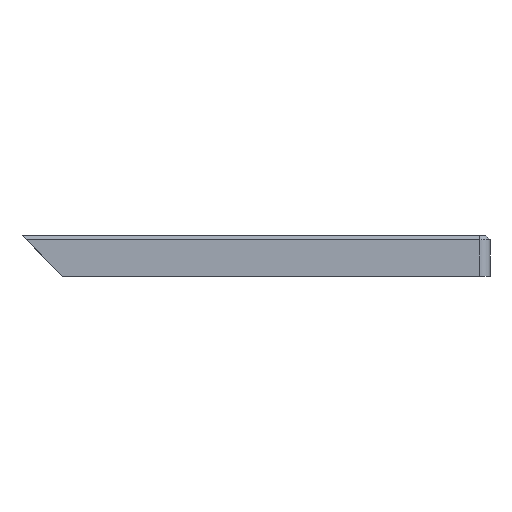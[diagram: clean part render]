
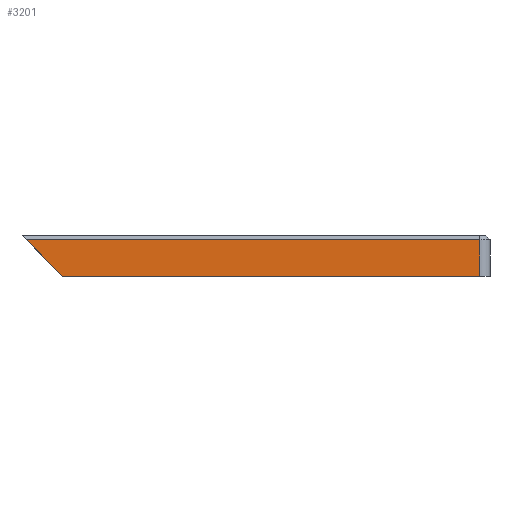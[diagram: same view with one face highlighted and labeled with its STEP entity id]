
A CAD part, front view. The second image highlights one B-rep face of the part: STEP entity #3201.
In plain terms, the highlighted planar face has unit normal (0, -1, 0).
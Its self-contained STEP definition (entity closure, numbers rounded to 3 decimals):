
#272 = DIRECTION ( 'NONE',  ( 0., 0., 1. ) ) ;
#957 = DIRECTION ( 'NONE',  ( 0., 0., 1. ) ) ;
#1276 = EDGE_CURVE ( 'NONE', #3980, #4163, #2570, .T. ) ;
#1338 = EDGE_CURVE ( 'NONE', #3298, #6572, #4359, .T. ) ;
#1378 = CARTESIAN_POINT ( 'NONE',  ( -95., -115., 0. ) ) ;
#1411 = FACE_OUTER_BOUND ( 'NONE', #5043, .T. ) ;
#1520 = CARTESIAN_POINT ( 'NONE',  ( 110., -115., 18. ) ) ;
#2017 = CARTESIAN_POINT ( 'NONE',  ( -113., -115., 18. ) ) ;
#2222 = CARTESIAN_POINT ( 'NONE',  ( -115., -115., 0. ) ) ;
#2562 = CARTESIAN_POINT ( 'NONE',  ( -95., -115., 0. ) ) ;
#2570 = LINE ( 'NONE', #2222, #2843 ) ;
#2596 = DIRECTION ( 'NONE',  ( 0.707, 0., -0.707 ) ) ;
#2606 = CARTESIAN_POINT ( 'NONE',  ( -115., -115., 20. ) ) ;
#2747 = ORIENTED_EDGE ( 'NONE', *, *, #3000, .T. ) ;
#2843 = VECTOR ( 'NONE', #6342, 1000. ) ;
#3000 = EDGE_CURVE ( 'NONE', #4163, #3298, #3565, .T. ) ;
#3200 = VECTOR ( 'NONE', #272, 1000. ) ;
#3201 = ADVANCED_FACE ( 'NONE', ( #1411 ), #3920, .F. ) ;
#3217 = VECTOR ( 'NONE', #5192, 1000. ) ;
#3298 = VERTEX_POINT ( 'NONE', #1520 ) ;
#3565 = LINE ( 'NONE', #6844, #3200 ) ;
#3914 = LINE ( 'NONE', #1378, #4096 ) ;
#3920 = PLANE ( 'NONE',  #4654 ) ;
#3980 = VERTEX_POINT ( 'NONE', #2562 ) ;
#4051 = ORIENTED_EDGE ( 'NONE', *, *, #6575, .T. ) ;
#4096 = VECTOR ( 'NONE', #2596, 1000. ) ;
#4163 = VERTEX_POINT ( 'NONE', #6344 ) ;
#4359 = LINE ( 'NONE', #5773, #3217 ) ;
#4654 = AXIS2_PLACEMENT_3D ( 'NONE', #2606, #7010, #957 ) ;
#5043 = EDGE_LOOP ( 'NONE', ( #2747, #7421, #4051, #5894 ) ) ;
#5192 = DIRECTION ( 'NONE',  ( -1., 0., 0. ) ) ;
#5773 = CARTESIAN_POINT ( 'NONE',  ( -115., -115., 18. ) ) ;
#5894 = ORIENTED_EDGE ( 'NONE', *, *, #1276, .T. ) ;
#6342 = DIRECTION ( 'NONE',  ( 1., 0., 0. ) ) ;
#6344 = CARTESIAN_POINT ( 'NONE',  ( 110., -115., 0. ) ) ;
#6572 = VERTEX_POINT ( 'NONE', #2017 ) ;
#6575 = EDGE_CURVE ( 'NONE', #6572, #3980, #3914, .T. ) ;
#6844 = CARTESIAN_POINT ( 'NONE',  ( 110., -115., 20. ) ) ;
#7010 = DIRECTION ( 'NONE',  ( 0., 1., 0. ) ) ;
#7421 = ORIENTED_EDGE ( 'NONE', *, *, #1338, .T. ) ;
